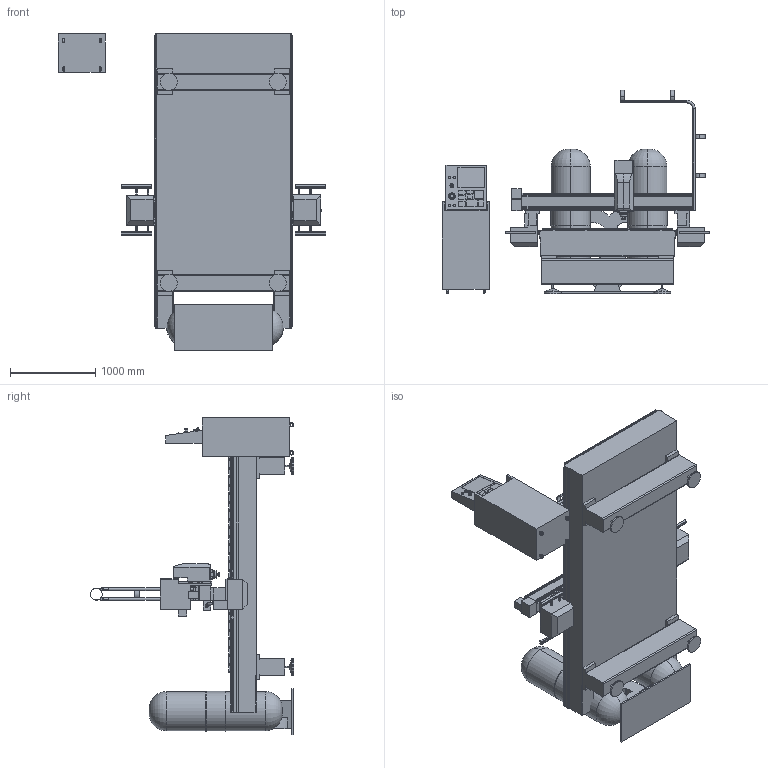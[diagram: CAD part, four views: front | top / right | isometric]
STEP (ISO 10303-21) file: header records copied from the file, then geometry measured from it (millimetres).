
FILE_DESCRIPTION (( 'STEP AP203' ), '1' );
FILE_NAME ('SR 3015_8_2024.STEP', '2024-11-15T22:59:10', ( '' ), ( '' ), 'SwSTEP 2.0', 'SolidWorks 2022', '' );
FILE_SCHEMA (( 'CONFIG_CONTROL_DESIGN' ));
Length unit declared in the file: inch
Products named in the file (9): SR3015 Y AXIS; SR3015 CP CABINET; SR3015 VACUUM BAFFLES; SR3015 Z AXIS; SR3015 TABLE; SR3015 X AXIS; SR3015 CONTROL PANEL; SR 3015_8_2024; SR3015 LEVELING PADS
Assembly tree (8 placements, depth 2):
  SR 3015_8_2024
    SR3015 TABLE
    SR3015 LEVELING PADS
    SR3015 CP CABINET
    SR3015 CONTROL PANEL
    SR3015 Y AXIS
    SR3015 X AXIS
    SR3015 Z AXIS
    SR3015 VACUUM BAFFLES
Bounding box: 3133.56 x 2382.12 x 3719.3 mm (x, y, z)
Volume: 2735831015.9 mm3; surface area: 44114896.4 mm2
Topology: 12 solids, 21 shells, 1853 faces, 4988 edges, 3240 vertices
Faces by surface type: plane 1401, cylinder 318, bspline 63, cone 51, torus 20
Entity records: 59621 total; most frequent: CARTESIAN_POINT 11914, ORIENTED_EDGE 9976, DIRECTION 9330, EDGE_CURVE 4988, VECTOR 3996, LINE 3996, VERTEX_POINT 3240, AXIS2_PLACEMENT_3D 2667
